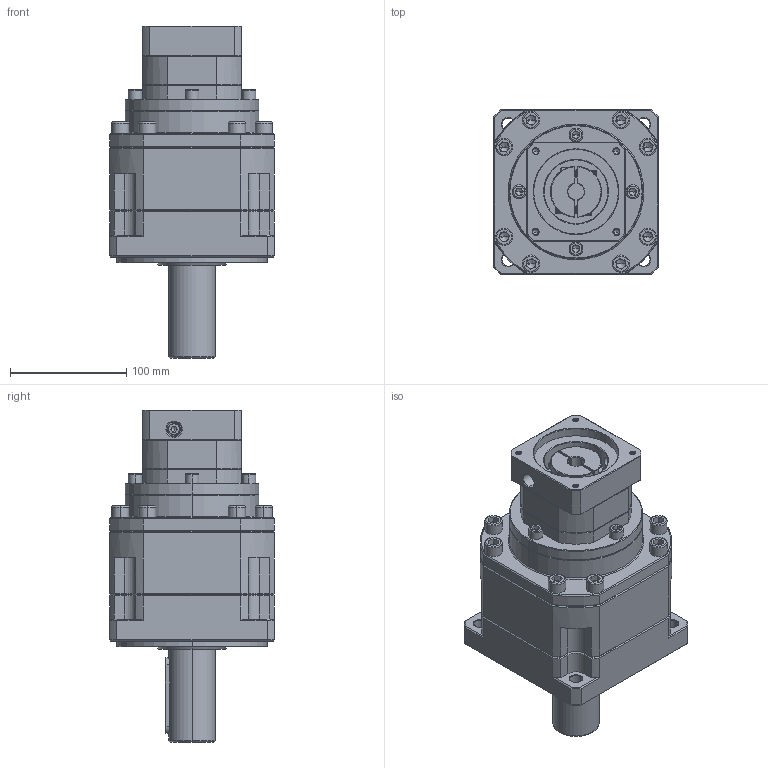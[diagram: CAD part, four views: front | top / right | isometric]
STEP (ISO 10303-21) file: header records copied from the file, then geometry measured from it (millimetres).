
FILE_DESCRIPTION (( 'STEP AP214' ), '1' );
FILE_NAME ('ZB142A-D40-L3-14-73-69.6X69.6-M6.step', '2023-03-18T08:15:42', ( '' ), ( '' ), 'SwSTEP 2.0', 'SolidWorks 2016', '' );
FILE_SCHEMA (( 'AUTOMOTIVE_DESIGN' ));
Length unit declared in the file: millimetre
Products named in the file (1): ZB142A-D40-L3-14-73-69.6X69.6-M6
Bounding box: 142 x 142 x 286.2 mm (x, y, z)
Volume: 2772953.1 mm3; surface area: 200173.8 mm2
Topology: 5 solids, 6 shells, 2264 faces, 5795 edges, 3647 vertices
Faces by surface type: plane 1056, cylinder 473, cone 375, bspline 299, torus 61
Entity records: 118331 total; most frequent: CARTESIAN_POINT 41295, ORIENTED_EDGE 11482, DIRECTION 9717, EDGE_CURVE 5741, VERTEX_POINT 3647, VECTOR 3585, LINE 3585, AXIS2_PLACEMENT_3D 3066
